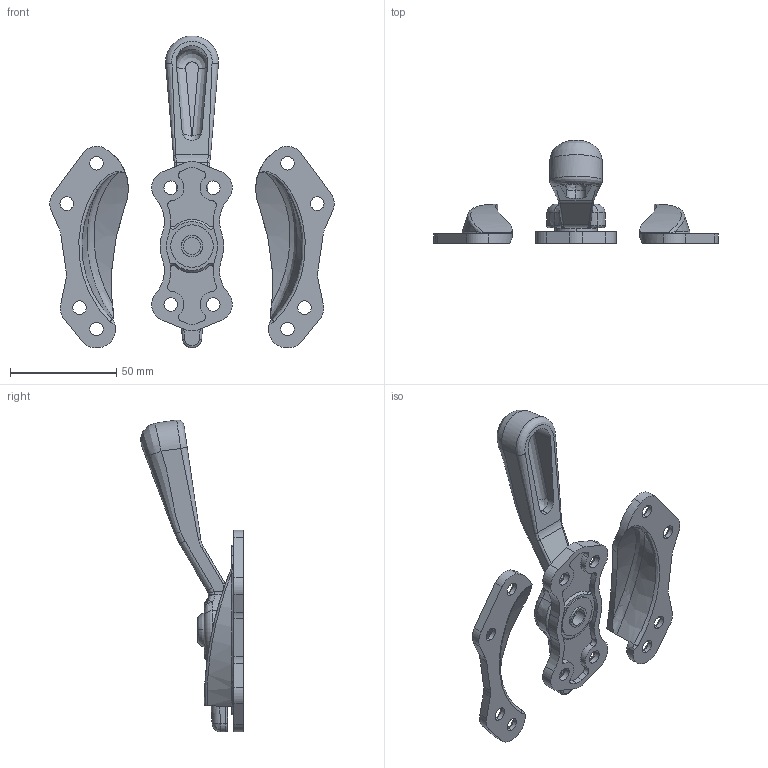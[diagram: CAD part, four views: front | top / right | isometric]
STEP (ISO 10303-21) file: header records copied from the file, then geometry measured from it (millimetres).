
FILE_DESCRIPTION (( 'STEP AP203' ), '1' );
FILE_NAME ('SK1-8116.STEP', '2020-03-23T07:37:39', ( 'admin' ), ( 'Microsoft' ), 'SwSTEP 2.0', 'SolidWorks 2018', '' );
FILE_SCHEMA (( 'CONFIG_CONTROL_DESIGN' ));
Length unit declared in the file: millimetre
Products named in the file (8): 1-8116-F5; 1-8116-F6; 1-8116-F7; 1-8116-F4; SK1-8116; 1-8116-F1; 1-8116-F2; 1-8116-F3
Assembly tree (8 placements, depth 2):
  SK1-8116
    1-8116-F1
    1-8116-F2
    1-8116-F3
    1-8116-F5
    1-8116-F6  x2
    1-8116-F7
    1-8116-F4
Bounding box: 133.99 x 48.48 x 146.96 mm (x, y, z)
Volume: 56116.3 mm3; surface area: 32386.7 mm2
Topology: 8 solids, 8 shells, 343 faces, 863 edges, 526 vertices
Faces by surface type: cylinder 128, bspline 113, plane 53, cone 34, torus 15
Entity records: 16839 total; most frequent: CARTESIAN_POINT 8537, ORIENTED_EDGE 1682, DIRECTION 1435, EDGE_CURVE 841, AXIS2_PLACEMENT_3D 602, VERTEX_POINT 518, EDGE_LOOP 369, CIRCLE 367
